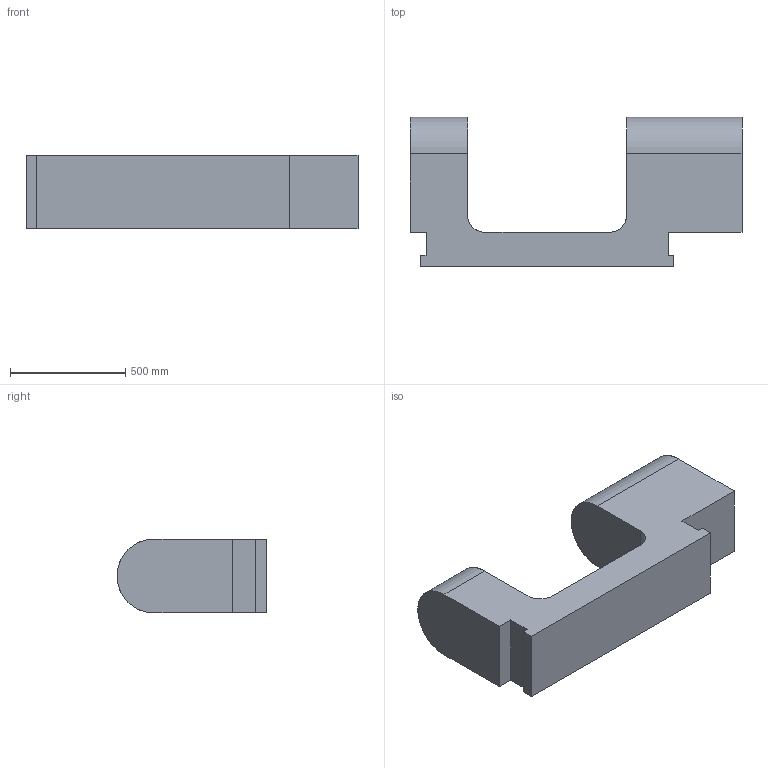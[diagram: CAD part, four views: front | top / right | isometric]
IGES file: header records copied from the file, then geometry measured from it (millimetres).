
Start section: SolidWorks IGES file using analytic representation for surfaces
Global section: file name: J:\Scolaire\BAC Pro\Epreuves professionnelles\E2\CD\Dossier Examinateurs\Dessins CN 5 axes\IGES\chariot.IGS; native system: SolidWorks 2005 by SolidWorks Corporation; preprocessor: SolidWorks 2005 by SolidWorks Corporation; author: Famille Couzi; date: 091204.123936; units: millimetre
Bounding box: 1440 x 650 x 320 mm (x, y, z)
Surface area: 2596867.3 mm2 (no closed solid volume)
Topology: 0 solids, 0 shells, 22 faces, 268 edges, 268 vertices
Faces by surface type: bspline 16, revolution 6
